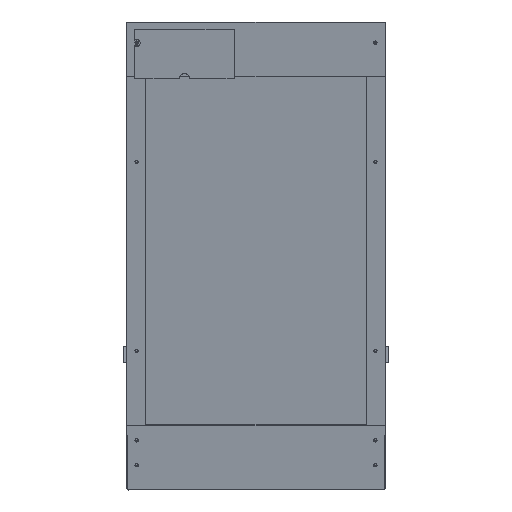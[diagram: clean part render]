
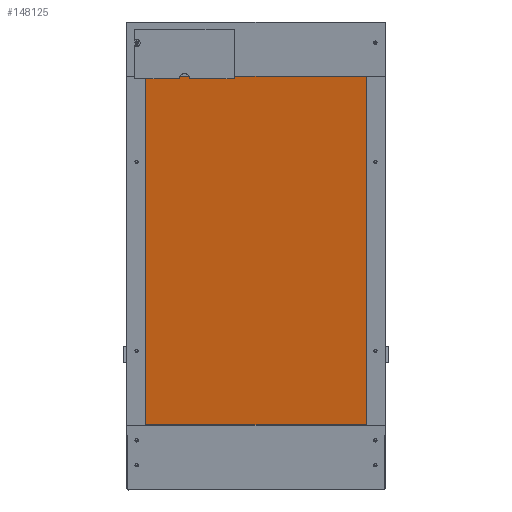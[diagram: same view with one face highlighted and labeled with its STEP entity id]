
A CAD part, top view. The second image highlights one B-rep face of the part: STEP entity #148125.
In plain terms, the highlighted planar face has unit normal (0, -0.174, 0.985).
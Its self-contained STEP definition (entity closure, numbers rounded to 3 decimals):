
#147956 = PLANE('',#147957);
#147957 = AXIS2_PLACEMENT_3D('',#147958,#147959,#147960);
#147958 = CARTESIAN_POINT('',(18.1,64.,86.285));
#147959 = DIRECTION('',(-0.,1.,0.));
#147960 = DIRECTION('',(0.,0.,-1.));
#147984 = PLANE('',#147985);
#147985 = AXIS2_PLACEMENT_3D('',#147986,#147987,#147988);
#147986 = CARTESIAN_POINT('',(241.9,240.675,111.437));
#147987 = DIRECTION('',(1.,0.,0.));
#147988 = DIRECTION('',(-0.,0.,1.));
#148012 = PLANE('',#148013);
#148013 = AXIS2_PLACEMENT_3D('',#148014,#148015,#148016);
#148014 = CARTESIAN_POINT('',(18.1,417.349,136.59));
#148015 = DIRECTION('',(0.,-1.,0.));
#148016 = DIRECTION('',(0.,0.,1.));
#148038 = PLANE('',#148039);
#148039 = AXIS2_PLACEMENT_3D('',#148040,#148041,#148042);
#148040 = CARTESIAN_POINT('',(18.1,240.675,111.437));
#148041 = DIRECTION('',(1.,0.,0.));
#148042 = DIRECTION('',(-0.,0.,1.));
#148055 = VERTEX_POINT('',#148056);
#148056 = CARTESIAN_POINT('',(241.9,417.349,148.59));
#148077 = EDGE_CURVE('',#148078,#148055,#148080,.T.);
#148078 = VERTEX_POINT('',#148079);
#148079 = CARTESIAN_POINT('',(18.1,417.349,148.59));
#148080 = SURFACE_CURVE('',#148081,(#148085,#148092),.PCURVE_S1.);
#148081 = LINE('',#148082,#148083);
#148082 = CARTESIAN_POINT('',(18.1,417.349,148.59));
#148083 = VECTOR('',#148084,1.);
#148084 = DIRECTION('',(1.,0.,0.));
#148085 = PCURVE('',#148012,#148086);
#148086 = DEFINITIONAL_REPRESENTATION('',(#148087),#148091);
#148087 = LINE('',#148088,#148089);
#148088 = CARTESIAN_POINT('',(12.,0.));
#148089 = VECTOR('',#148090,1.);
#148090 = DIRECTION('',(0.,-1.));
#148091 = ( GEOMETRIC_REPRESENTATION_CONTEXT(2) 
PARAMETRIC_REPRESENTATION_CONTEXT() REPRESENTATION_CONTEXT('2D SPACE',''
  ) );
#148092 = PCURVE('',#148093,#148098);
#148093 = PLANE('',#148094);
#148094 = AXIS2_PLACEMENT_3D('',#148095,#148096,#148097);
#148095 = CARTESIAN_POINT('',(18.1,417.349,148.59));
#148096 = DIRECTION('',(0.,0.174,-0.985));
#148097 = DIRECTION('',(0.,-0.985,-0.174));
#148098 = DEFINITIONAL_REPRESENTATION('',(#148099),#148103);
#148099 = LINE('',#148100,#148101);
#148100 = CARTESIAN_POINT('',(0.,0.));
#148101 = VECTOR('',#148102,1.);
#148102 = DIRECTION('',(0.,-1.));
#148103 = ( GEOMETRIC_REPRESENTATION_CONTEXT(2) 
PARAMETRIC_REPRESENTATION_CONTEXT() REPRESENTATION_CONTEXT('2D SPACE',''
  ) );
#148125 = ADVANCED_FACE('',(#148126),#148093,.F.);
#148126 = FACE_BOUND('',#148127,.F.);
#148127 = EDGE_LOOP('',(#148128,#148129,#148152,#148175));
#148128 = ORIENTED_EDGE('',*,*,#148077,.T.);
#148129 = ORIENTED_EDGE('',*,*,#148130,.T.);
#148130 = EDGE_CURVE('',#148055,#148131,#148133,.T.);
#148131 = VERTEX_POINT('',#148132);
#148132 = CARTESIAN_POINT('',(241.9,64.,86.285));
#148133 = SURFACE_CURVE('',#148134,(#148138,#148145),.PCURVE_S1.);
#148134 = LINE('',#148135,#148136);
#148135 = CARTESIAN_POINT('',(241.9,417.349,148.59));
#148136 = VECTOR('',#148137,1.);
#148137 = DIRECTION('',(0.,-0.985,-0.174));
#148138 = PCURVE('',#148093,#148139);
#148139 = DEFINITIONAL_REPRESENTATION('',(#148140),#148144);
#148140 = LINE('',#148141,#148142);
#148141 = CARTESIAN_POINT('',(0.,-223.8));
#148142 = VECTOR('',#148143,1.);
#148143 = DIRECTION('',(1.,0.));
#148144 = ( GEOMETRIC_REPRESENTATION_CONTEXT(2) 
PARAMETRIC_REPRESENTATION_CONTEXT() REPRESENTATION_CONTEXT('2D SPACE',''
  ) );
#148145 = PCURVE('',#147984,#148146);
#148146 = DEFINITIONAL_REPRESENTATION('',(#148147),#148151);
#148147 = LINE('',#148148,#148149);
#148148 = CARTESIAN_POINT('',(37.152,-176.675));
#148149 = VECTOR('',#148150,1.);
#148150 = DIRECTION('',(-0.174,0.985));
#148151 = ( GEOMETRIC_REPRESENTATION_CONTEXT(2) 
PARAMETRIC_REPRESENTATION_CONTEXT() REPRESENTATION_CONTEXT('2D SPACE',''
  ) );
#148152 = ORIENTED_EDGE('',*,*,#148153,.F.);
#148153 = EDGE_CURVE('',#148154,#148131,#148156,.T.);
#148154 = VERTEX_POINT('',#148155);
#148155 = CARTESIAN_POINT('',(18.1,64.,86.285));
#148156 = SURFACE_CURVE('',#148157,(#148161,#148168),.PCURVE_S1.);
#148157 = LINE('',#148158,#148159);
#148158 = CARTESIAN_POINT('',(18.1,64.,86.285));
#148159 = VECTOR('',#148160,1.);
#148160 = DIRECTION('',(1.,0.,0.));
#148161 = PCURVE('',#148093,#148162);
#148162 = DEFINITIONAL_REPRESENTATION('',(#148163),#148167);
#148163 = LINE('',#148164,#148165);
#148164 = CARTESIAN_POINT('',(358.8,0.));
#148165 = VECTOR('',#148166,1.);
#148166 = DIRECTION('',(0.,-1.));
#148167 = ( GEOMETRIC_REPRESENTATION_CONTEXT(2) 
PARAMETRIC_REPRESENTATION_CONTEXT() REPRESENTATION_CONTEXT('2D SPACE',''
  ) );
#148168 = PCURVE('',#147956,#148169);
#148169 = DEFINITIONAL_REPRESENTATION('',(#148170),#148174);
#148170 = LINE('',#148171,#148172);
#148171 = CARTESIAN_POINT('',(0.,0.));
#148172 = VECTOR('',#148173,1.);
#148173 = DIRECTION('',(0.,-1.));
#148174 = ( GEOMETRIC_REPRESENTATION_CONTEXT(2) 
PARAMETRIC_REPRESENTATION_CONTEXT() REPRESENTATION_CONTEXT('2D SPACE',''
  ) );
#148175 = ORIENTED_EDGE('',*,*,#148176,.F.);
#148176 = EDGE_CURVE('',#148078,#148154,#148177,.T.);
#148177 = SURFACE_CURVE('',#148178,(#148182,#148189),.PCURVE_S1.);
#148178 = LINE('',#148179,#148180);
#148179 = CARTESIAN_POINT('',(18.1,417.349,148.59));
#148180 = VECTOR('',#148181,1.);
#148181 = DIRECTION('',(0.,-0.985,-0.174));
#148182 = PCURVE('',#148093,#148183);
#148183 = DEFINITIONAL_REPRESENTATION('',(#148184),#148188);
#148184 = LINE('',#148185,#148186);
#148185 = CARTESIAN_POINT('',(0.,0.));
#148186 = VECTOR('',#148187,1.);
#148187 = DIRECTION('',(1.,0.));
#148188 = ( GEOMETRIC_REPRESENTATION_CONTEXT(2) 
PARAMETRIC_REPRESENTATION_CONTEXT() REPRESENTATION_CONTEXT('2D SPACE',''
  ) );
#148189 = PCURVE('',#148038,#148190);
#148190 = DEFINITIONAL_REPRESENTATION('',(#148191),#148195);
#148191 = LINE('',#148192,#148193);
#148192 = CARTESIAN_POINT('',(37.152,-176.675));
#148193 = VECTOR('',#148194,1.);
#148194 = DIRECTION('',(-0.174,0.985));
#148195 = ( GEOMETRIC_REPRESENTATION_CONTEXT(2) 
PARAMETRIC_REPRESENTATION_CONTEXT() REPRESENTATION_CONTEXT('2D SPACE',''
  ) );
